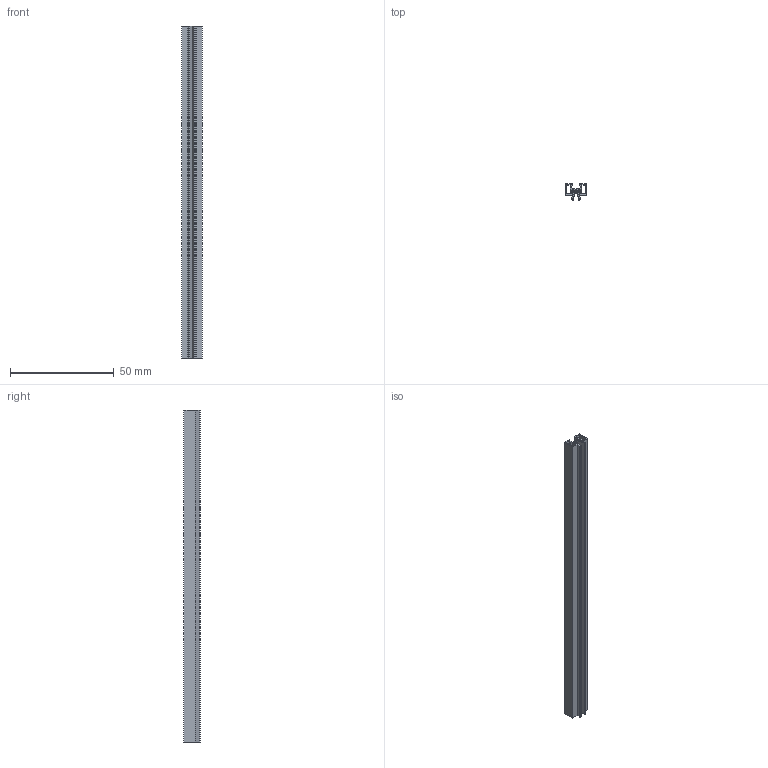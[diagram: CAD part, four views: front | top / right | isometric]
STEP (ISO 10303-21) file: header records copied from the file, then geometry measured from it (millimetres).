
FILE_DESCRIPTION(/* description */ (''),/* implementation_level */ '2;1');
FILE_NAME(/* name */ 'C:/Users/priba/Documents/Temp/Backup/Brick 1x16x0.55 v3.step',/* time_stamp */ '2019-07-02T17:27:47+02:00',/* author */ (''),/* organization */ (''),/* preprocessor_version */ 'ST-DEVELOPER v18',/* originating_system */ 'Autodesk Translation Framework v8.2.0.1029',/* authorisation */ '');
FILE_SCHEMA (('AUTOMOTIVE_DESIGN { 1 0 10303 214 3 1 1 }'));
Length unit declared in the file: millimetre
Products named in the file (1): Brick 1x16x0.55
Bounding box: 10 x 7.81 x 160 mm (x, y, z)
Volume: 4148.4 mm3; surface area: 15423.7 mm2
Topology: 1 solids, 1 shells, 52 faces, 144 edges, 96 vertices
Faces by surface type: plane 52
Entity records: 1658 total; most frequent: CARTESIAN_POINT 293, ORIENTED_EDGE 288, DIRECTION 250, LINE 144, VECTOR 144, EDGE_CURVE 144, VERTEX_POINT 96, EDGE_LOOP 58
